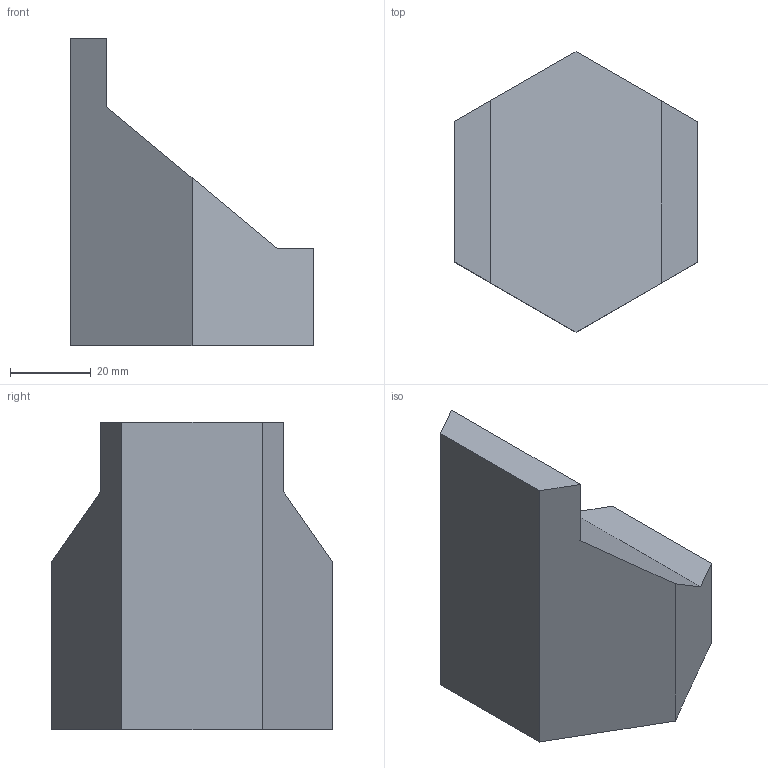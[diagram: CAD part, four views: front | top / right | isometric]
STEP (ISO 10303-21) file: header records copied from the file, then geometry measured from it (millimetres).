
FILE_DESCRIPTION(('Open CASCADE Model'),'2;1');
FILE_NAME('Open CASCADE Shape Model','2026-11-02T09:50:25',('Author'),( 'Open CASCADE'),'Open CASCADE STEP processor 7.8','Open CASCADE 7.8' ,'Unknown');
FILE_SCHEMA(('AUTOMOTIVE_DESIGN { 1 0 10303 214 1 1 1 1 }'));
Length unit declared in the file: millimetre
Products named in the file (1): Open CASCADE STEP translator 7.8 2
Bounding box: 60 x 69.28 x 76 mm (x, y, z)
Volume: 135479.3 mm3; surface area: 17293.1 mm2
Topology: 1 solids, 1 shells, 11 faces, 27 edges, 18 vertices
Faces by surface type: plane 11
Entity records: 666 total; most frequent: CARTESIAN_POINT 127, DIRECTION 89, LINE 65, VECTOR 65, ORIENTED_EDGE 54, PCURVE 54, DEFINITIONAL_REPRESENTATION 54, EDGE_CURVE 27
